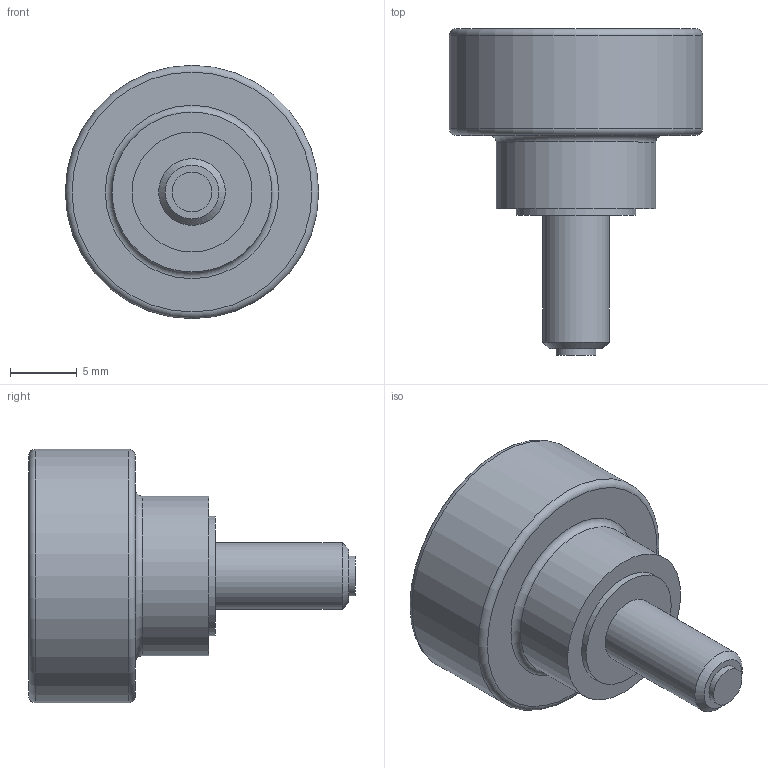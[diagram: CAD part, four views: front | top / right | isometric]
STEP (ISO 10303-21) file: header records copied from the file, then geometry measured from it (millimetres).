
FILE_DESCRIPTION( ( 'STEP AP203' ), '1' );
FILE_NAME( 'C:/Temp/Ganter_Step_05_03_2020/data/2_2/gn_421_10/Hollow knurled knob, with tip GN 421.10-M5-10-MS.stp', '2020-03-05T12:25:30', ( 'License CC BY-ND 4.0' ), ( 'CADENAS' ), ' ', 'PARTsolutions', ' ' );
FILE_SCHEMA( ( 'CONFIG_CONTROL_DESIGN' ) );
Length unit declared in the file: millimetre
Products named in the file (1): _Hollow knurled knob, with tip GN 421.10-M5-10-MS
Bounding box: 19 x 24.5 x 19 mm (x, y, z)
Volume: 2110.7 mm3; surface area: 1690.8 mm2
Topology: 1 solids, 1 shells, 19 faces, 30 edges, 19 vertices
Faces by surface type: plane 8, cylinder 7, torus 3, cone 1
Full cylindrical faces by diameter (mm): 3 x1, 5 x1, 8 x1, 9 x1, 12 x1, 16 x1, 19 x1
Entity records: 418 total; most frequent: DIRECTION 76, CARTESIAN_POINT 56, AXIS2_PLACEMENT_3D 38, EDGE_LOOP 36, ORIENTED_EDGE 36, FACE_OUTER_BOUND 29, ADVANCED_FACE 19, EDGE_CURVE 18
